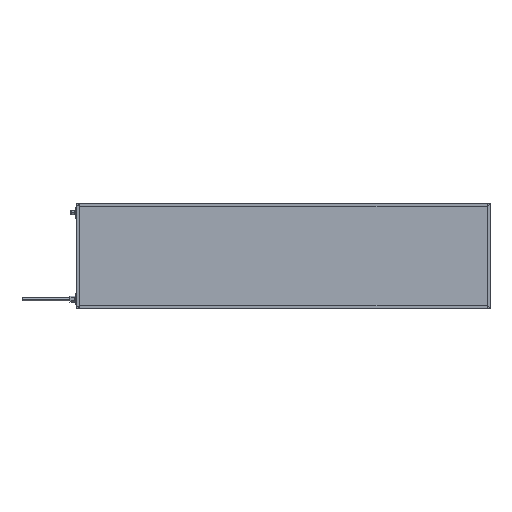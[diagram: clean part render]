
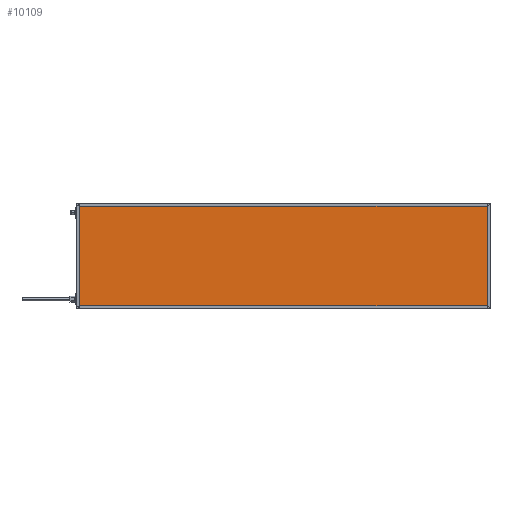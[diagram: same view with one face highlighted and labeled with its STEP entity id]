
A CAD part, top view. The second image highlights one B-rep face of the part: STEP entity #10109.
In plain terms, the highlighted planar face has unit normal (0, 0, 1).
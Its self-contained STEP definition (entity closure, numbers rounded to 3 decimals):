
#570 = VERTEX_POINT ( 'NONE', #16728 ) ;
#916 = CARTESIAN_POINT ( 'NONE',  ( 0., 4., 41.85 ) ) ;
#1745 = CARTESIAN_POINT ( 'NONE',  ( 4., 0., 41.85 ) ) ;
#1829 = VECTOR ( 'NONE', #11006, 1000. ) ;
#1858 = DIRECTION ( 'NONE',  ( 0., 1., 0. ) ) ;
#1991 = ORIENTED_EDGE ( 'NONE', *, *, #2515, .T. ) ;
#2003 = ORIENTED_EDGE ( 'NONE', *, *, #15312, .T. ) ;
#2281 = EDGE_LOOP ( 'NONE', ( #10203, #6005, #2003, #1991 ) ) ;
#2515 = EDGE_CURVE ( 'NONE', #14575, #570, #14693, .T. ) ;
#2970 = VECTOR ( 'NONE', #13301, 1000. ) ;
#3031 = DIRECTION ( 'NONE',  ( 0., -1., 0. ) ) ;
#3523 = VERTEX_POINT ( 'NONE', #9396 ) ;
#3616 = EDGE_CURVE ( 'NONE', #3523, #7073, #5446, .T. ) ;
#3946 = DIRECTION ( 'NONE',  ( -1., 0., 0. ) ) ;
#4392 = LINE ( 'NONE', #1745, #15215 ) ;
#5137 = PLANE ( 'NONE',  #11102 ) ;
#5446 = LINE ( 'NONE', #16852, #1829 ) ;
#6005 = ORIENTED_EDGE ( 'NONE', *, *, #3616, .T. ) ;
#6070 = EDGE_CURVE ( 'NONE', #570, #3523, #17250, .T. ) ;
#6245 = CARTESIAN_POINT ( 'NONE',  ( 4., 296., 41.85 ) ) ;
#7073 = VERTEX_POINT ( 'NONE', #6245 ) ;
#8780 = CARTESIAN_POINT ( 'NONE',  ( 1196., 0., 41.85 ) ) ;
#9396 = CARTESIAN_POINT ( 'NONE',  ( 1196., 296., 41.85 ) ) ;
#10109 = ADVANCED_FACE ( 'NONE', ( #13601 ), #5137, .F. ) ;
#10203 = ORIENTED_EDGE ( 'NONE', *, *, #6070, .T. ) ;
#10692 = CARTESIAN_POINT ( 'NONE',  ( 0., 0., 41.85 ) ) ;
#11006 = DIRECTION ( 'NONE',  ( -1., 0., 0. ) ) ;
#11102 = AXIS2_PLACEMENT_3D ( 'NONE', #10692, #16088, #3946 ) ;
#12099 = VECTOR ( 'NONE', #1858, 1000. ) ;
#12691 = CARTESIAN_POINT ( 'NONE',  ( 4., 4., 41.85 ) ) ;
#13301 = DIRECTION ( 'NONE',  ( 1., 0., 0. ) ) ;
#13601 = FACE_OUTER_BOUND ( 'NONE', #2281, .T. ) ;
#14575 = VERTEX_POINT ( 'NONE', #12691 ) ;
#14693 = LINE ( 'NONE', #916, #2970 ) ;
#15215 = VECTOR ( 'NONE', #3031, 1000. ) ;
#15312 = EDGE_CURVE ( 'NONE', #7073, #14575, #4392, .T. ) ;
#16088 = DIRECTION ( 'NONE',  ( 0., 0., -1. ) ) ;
#16728 = CARTESIAN_POINT ( 'NONE',  ( 1196., 4., 41.85 ) ) ;
#16852 = CARTESIAN_POINT ( 'NONE',  ( 0., 296., 41.85 ) ) ;
#17250 = LINE ( 'NONE', #8780, #12099 ) ;
